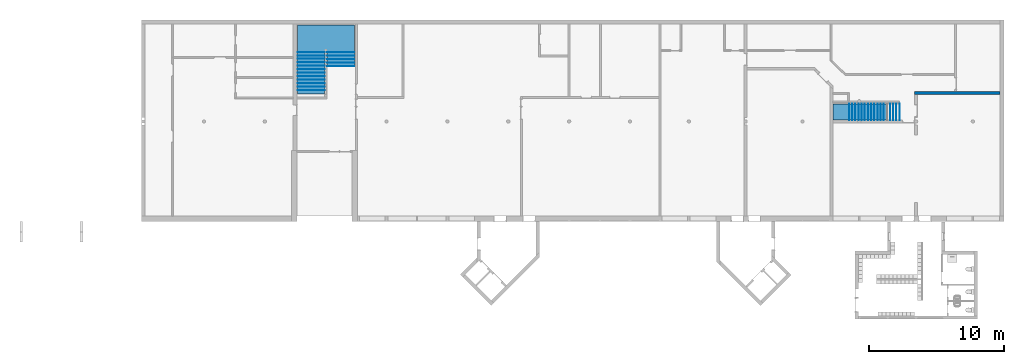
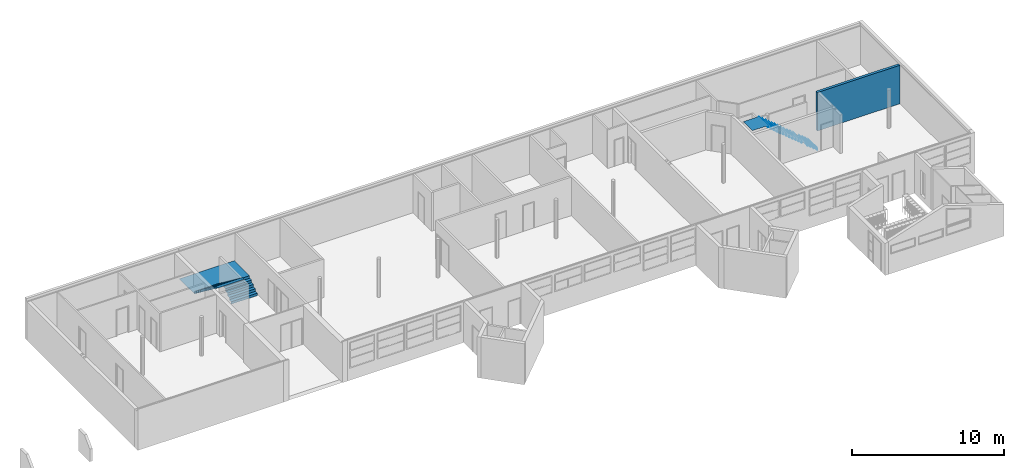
# One storey, part 19 of 25: 63 building element parts, 1 wall, 2 elements without a shape of their own.
"""IFC2X3 building model written with IfcOpenShell, lengths in millimetres."""

from ifc_helpers import new_model, entity, si_unit, converted_unit, derived_unit, money_unit, direction, frame, origin_with_axes, place, context, subcontext, project, spatial, open_shell, faceted_brep, surface_model, material, type_object, element, aggregate, save


model = new_model("IFC2X3")

# Units and contexts
model_context = context("Model", 3, precision=0.01, world=origin_with_axes(), true_north=direction((0.0, 1.0)))
body_context = subcontext(model_context, "Body", "Model", "MODEL_VIEW")
ifc_project = project(units=[si_unit("LENGTHUNIT", "METRE", prefix="MILLI"), si_unit("AREAUNIT", "SQUARE_METRE"), si_unit("VOLUMEUNIT", "CUBIC_METRE"), converted_unit("PLANEANGLEUNIT", "DEGREE", entity("IfcPlaneAngleMeasure", 0.0174532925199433), si_unit("PLANEANGLEUNIT", "RADIAN"), dimensions=[0, 0, 0, 0, 0, 0, 0]), money_unit("USD"), converted_unit("TIMEUNIT", "Year", entity("IfcTimeMeasure", 31557600.0), si_unit("TIMEUNIT", "SECOND"), dimensions=[0, 0, 1, 0, 0, 0, 0]), si_unit("MASSUNIT", "GRAM", prefix="KILO"), si_unit("THERMODYNAMICTEMPERATUREUNIT", "DEGREE_CELSIUS"), si_unit("LUMINOUSINTENSITYUNIT", "LUMEN"), si_unit("ENERGYUNIT", "JOULE", prefix="MEGA"), derived_unit("THERMALCONDUCTANCEUNIT", [(si_unit("POWERUNIT", "WATT"), 1), (si_unit("LENGTHUNIT", "METRE"), -1), (si_unit("THERMODYNAMICTEMPERATUREUNIT", "KELVIN"), -1)]), derived_unit("SPECIFICHEATCAPACITYUNIT", [(si_unit("ENERGYUNIT", "JOULE"), 1), (si_unit("MASSUNIT", "GRAM", prefix="KILO"), -1), (si_unit("THERMODYNAMICTEMPERATUREUNIT", "KELVIN"), -1)]), derived_unit("MASSDENSITYUNIT", [(si_unit("MASSUNIT", "GRAM", prefix="KILO"), 1), (si_unit("VOLUMEUNIT", "CUBIC_METRE"), -1)])], contexts=[model_context])

# Site, building, storey
site_placement = place(None, origin_with_axes())
site = spatial("IfcSite", under=ifc_project, at=site_placement, Name="Site", CompositionType="ELEMENT")
building_placement = place(site_placement, origin_with_axes())
building = spatial("IfcBuilding", under=site, at=building_placement, Name="Building", CompositionType="ELEMENT")
storey_placement = place(building_placement, origin_with_axes())
storey = spatial("IfcBuildingStorey", under=building, at=storey_placement, Name="U ETG", CompositionType="ELEMENT", Elevation=0.0)

# Wall
ifc_material = material(Name="GENERIC - INTERNAL FILLER")
wall_type = type_object("IfcWallType", Name="GENERIC - INTERNAL FILLER 200", PredefinedType="NOTDEFINED")
wall_placement = place(storey_placement, frame((72350.0, 16700.0, 0.0), z_axis=(0.0, 0.0, 1.0), x_axis=(-1.0, 0.0, 0.0)))
element("IfcWall", 1, at=wall_placement, inside=storey, type_object=wall_type, material=ifc_material, Name="SW - 001", context=body_context, shape_type="Brep", body=[
    faceted_brep([(6299.999999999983, 199.9999999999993, 0.0), (6299.999999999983, 0.0, 0.0), (0.0, 0.0, 0.0), (0.0, 199.9999999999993, 0.0), (6299.999999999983, 199.9999999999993, 3100.0), (6299.999999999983, 0.0, 3100.0), (0.0, 0.0, 3100.0), (0.0, 199.9999999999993, 3100.0)], [[[0, 1, 2, 3]], [[1, 0, 4, 5]], [[1, 5, 6, 2]], [[7, 3, 2, 6]], [[4, 0, 3, 7]], [[5, 4, 7, 6]]]),
])

# Stair, building element parts
stair_1_placement = place(storey_placement, frame((20418.15333142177, 17179.44327235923, 0.0), z_axis=(0.0, 0.0, 1.0), x_axis=(1.0, 0.0, 0.0)))
stair_1 = element("IfcStair", 2, at=stair_1_placement, inside=storey, Name="STAIR - 001", ShapeType="NOTDEFINED")
building_element_part_1_placement = place(stair_1_placement, origin_with_axes())
building_element_part_1 = element("IfcBuildingElementPart", 3, at=building_element_part_1_placement, context=body_context, shape_type="SurfaceModel", body=[
    surface_model("IfcShellBasedSurfaceModel", [(2200.000000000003, 1406.254255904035, 194.1176470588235), (4200.000000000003, 1406.254255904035, 194.1176470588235), (4200.000000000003, 1406.254255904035, 0.0), (2200.000000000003, 1406.254255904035, 0.0)], [open_shell([[[0, 1, 2, 3]]])]),
])
building_element_part_2_placement = place(stair_1_placement, origin_with_axes())
building_element_part_2 = element("IfcBuildingElementPart", 4, at=building_element_part_2_placement, context=body_context, shape_type="SurfaceModel", body=[
    surface_model("IfcShellBasedSurfaceModel", [(2200.000000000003, 1663.292902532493, 388.2352941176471), (4200.000000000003, 1663.292902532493, 388.2352941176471), (4200.000000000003, 1663.292902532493, 194.1176470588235), (2200.000000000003, 1663.292902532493, 194.1176470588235)], [open_shell([[[0, 1, 2, 3]]])]),
])
building_element_part_3_placement = place(stair_1_placement, origin_with_axes())
building_element_part_3 = element("IfcBuildingElementPart", 5, at=building_element_part_3_placement, context=body_context, shape_type="SurfaceModel", body=[
    surface_model("IfcShellBasedSurfaceModel", [(2200.000000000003, 1920.331549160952, 582.3529411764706), (4200.000000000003, 1920.331549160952, 582.3529411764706), (4200.000000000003, 1920.331549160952, 388.2352941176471), (2200.000000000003, 1920.331549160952, 388.2352941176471)], [open_shell([[[0, 1, 2, 3]]])]),
])
building_element_part_4_placement = place(stair_1_placement, origin_with_axes())
building_element_part_4 = element("IfcBuildingElementPart", 6, at=building_element_part_4_placement, context=body_context, shape_type="SurfaceModel", body=[
    surface_model("IfcShellBasedSurfaceModel", [(2200.000000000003, 2177.370195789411, 776.4705882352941), (4200.000000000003, 2177.370195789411, 776.4705882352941), (4200.000000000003, 2177.370195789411, 582.3529411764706), (2200.000000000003, 2177.370195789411, 582.3529411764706)], [open_shell([[[0, 1, 2, 3]]])]),
])
building_element_part_5_placement = place(stair_1_placement, origin_with_axes())
building_element_part_5 = element("IfcBuildingElementPart", 7, at=building_element_part_5_placement, context=body_context, shape_type="SurfaceModel", body=[
    surface_model("IfcShellBasedSurfaceModel", [(2200.000000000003, 2434.40884241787, 970.5882352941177), (4200.000000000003, 2434.40884241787, 970.5882352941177), (4200.000000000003, 2434.40884241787, 776.4705882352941), (2200.000000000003, 2434.40884241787, 776.4705882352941)], [open_shell([[[0, 1, 2, 3]]])]),
])
building_element_part_6_placement = place(stair_1_placement, origin_with_axes())
building_element_part_6 = element("IfcBuildingElementPart", 8, at=building_element_part_6_placement, context=body_context, shape_type="SurfaceModel", body=[
    surface_model("IfcShellBasedSurfaceModel", [(2000.0, 2451.689294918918, 1164.705882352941), (0.0, 2451.689294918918, 1164.705882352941), (0.0, 2451.689294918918, 970.5882352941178), (2000.0, 2451.689294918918, 970.5882352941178)], [open_shell([[[0, 1, 2, 3]]])]),
])
building_element_part_7_placement = place(stair_1_placement, origin_with_axes())
building_element_part_7 = element("IfcBuildingElementPart", 9, at=building_element_part_7_placement, context=body_context, shape_type="SurfaceModel", body=[
    surface_model("IfcShellBasedSurfaceModel", [(2000.0, 2194.650648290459, 1358.823529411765), (0.0, 2194.650648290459, 1358.823529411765), (0.0, 2194.650648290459, 1164.705882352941), (2000.0, 2194.650648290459, 1164.705882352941)], [open_shell([[[0, 1, 2, 3]]])]),
])
building_element_part_8_placement = place(stair_1_placement, origin_with_axes())
building_element_part_8 = element("IfcBuildingElementPart", 10, at=building_element_part_8_placement, context=body_context, shape_type="SurfaceModel", body=[
    surface_model("IfcShellBasedSurfaceModel", [(2000.0, 1937.612001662, 1552.941176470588), (0.0, 1937.612001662, 1552.941176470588), (0.0, 1937.612001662, 1358.823529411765), (2000.0, 1937.612001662, 1358.823529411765)], [open_shell([[[0, 1, 2, 3]]])]),
])
building_element_part_9_placement = place(stair_1_placement, origin_with_axes())
building_element_part_9 = element("IfcBuildingElementPart", 11, at=building_element_part_9_placement, context=body_context, shape_type="SurfaceModel", body=[
    surface_model("IfcShellBasedSurfaceModel", [(2000.0, 1680.573355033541, 1747.058823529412), (0.0, 1680.573355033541, 1747.058823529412), (0.0, 1680.573355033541, 1552.941176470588), (2000.0, 1680.573355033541, 1552.941176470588)], [open_shell([[[0, 1, 2, 3]]])]),
])
building_element_part_10_placement = place(stair_1_placement, origin_with_axes())
building_element_part_10 = element("IfcBuildingElementPart", 12, at=building_element_part_10_placement, context=body_context, shape_type="SurfaceModel", body=[
    surface_model("IfcShellBasedSurfaceModel", [(2000.0, 1423.534708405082, 1941.176470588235), (0.0, 1423.534708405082, 1941.176470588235), (0.0, 1423.534708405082, 1747.058823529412), (2000.0, 1423.534708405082, 1747.058823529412)], [open_shell([[[0, 1, 2, 3]]])]),
])
building_element_part_11_placement = place(stair_1_placement, origin_with_axes())
building_element_part_11 = element("IfcBuildingElementPart", 13, at=building_element_part_11_placement, context=body_context, shape_type="SurfaceModel", body=[
    surface_model("IfcShellBasedSurfaceModel", [(2000.0, 1166.496061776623, 2135.294117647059), (0.0, 1166.496061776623, 2135.294117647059), (0.0, 1166.496061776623, 1941.176470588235), (2000.0, 1166.496061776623, 1941.176470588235)], [open_shell([[[0, 1, 2, 3]]])]),
])
building_element_part_12_placement = place(stair_1_placement, origin_with_axes())
building_element_part_12 = element("IfcBuildingElementPart", 14, at=building_element_part_12_placement, context=body_context, shape_type="SurfaceModel", body=[
    surface_model("IfcShellBasedSurfaceModel", [(2000.0, 909.4574151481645, 2329.411764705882), (0.0, 909.4574151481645, 2329.411764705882), (0.0, 909.4574151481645, 2135.294117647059), (2000.0, 909.4574151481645, 2135.294117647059)], [open_shell([[[0, 1, 2, 3]]])]),
])
building_element_part_13_placement = place(stair_1_placement, origin_with_axes())
building_element_part_13 = element("IfcBuildingElementPart", 15, at=building_element_part_13_placement, context=body_context, shape_type="SurfaceModel", body=[
    surface_model("IfcShellBasedSurfaceModel", [(2000.0, 652.4187685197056, 2523.529411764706), (0.0, 652.4187685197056, 2523.529411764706), (0.0, 652.4187685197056, 2329.411764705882), (2000.0, 652.4187685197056, 2329.411764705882)], [open_shell([[[0, 1, 2, 3]]])]),
])
building_element_part_14_placement = place(stair_1_placement, origin_with_axes())
building_element_part_14 = element("IfcBuildingElementPart", 16, at=building_element_part_14_placement, context=body_context, shape_type="SurfaceModel", body=[
    surface_model("IfcShellBasedSurfaceModel", [(2000.0, 395.3801218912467, 2717.64705882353), (0.0, 395.3801218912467, 2717.64705882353), (0.0, 395.3801218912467, 2523.529411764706), (2000.0, 395.3801218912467, 2523.529411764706)], [open_shell([[[0, 1, 2, 3]]])]),
])
building_element_part_15_placement = place(stair_1_placement, origin_with_axes())
building_element_part_15 = element("IfcBuildingElementPart", 17, at=building_element_part_15_placement, context=body_context, shape_type="SurfaceModel", body=[
    surface_model("IfcShellBasedSurfaceModel", [(2000.0, 138.3414752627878, 2911.764705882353), (0.0, 138.3414752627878, 2911.764705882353), (0.0, 138.3414752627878, 2717.647058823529), (2000.0, 138.3414752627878, 2717.647058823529)], [open_shell([[[0, 1, 2, 3]]])]),
])
building_element_part_16_placement = place(stair_1_placement, origin_with_axes())
building_element_part_16 = element("IfcBuildingElementPart", 18, at=building_element_part_16_placement, context=body_context, shape_type="SurfaceModel", body=[
    surface_model("IfcShellBasedSurfaceModel", [(2000.0, -118.697171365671, 3105.882352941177), (0.0, -118.697171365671, 3105.882352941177), (0.0, -118.697171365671, 2911.764705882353), (2000.0, -118.697171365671, 2911.764705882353)], [open_shell([[[0, 1, 2, 3]]])]),
])
building_element_part_17_placement = place(stair_1_placement, origin_with_axes())
building_element_part_17 = element("IfcBuildingElementPart", 19, at=building_element_part_17_placement, context=body_context, shape_type="SurfaceModel", body=[
    surface_model("IfcShellBasedSurfaceModel", [(2000.0, -375.7358179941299, 3300.0), (0.0, -375.7358179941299, 3300.0), (0.0, -375.7358179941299, 3105.882352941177), (2000.0, -375.7358179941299, 3105.882352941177)], [open_shell([[[0, 1, 2, 3]]])]),
])
building_element_part_18_placement = place(stair_1_placement, origin_with_axes())
building_element_part_18 = element("IfcBuildingElementPart", 20, at=building_element_part_18_placement, context=body_context, shape_type="SurfaceModel", body=[
    surface_model("IfcShellBasedSurfaceModel", [(2200.000000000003, 1406.254255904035, 194.1176470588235), (2200.000000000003, 1663.292902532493, 194.1176470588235), (4200.000000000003, 1663.292902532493, 194.1176470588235), (4200.000000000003, 1406.254255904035, 194.1176470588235)], [open_shell([[[0, 1, 2, 3]]])]),
])
building_element_part_19_placement = place(stair_1_placement, origin_with_axes())
building_element_part_19 = element("IfcBuildingElementPart", 21, at=building_element_part_19_placement, context=body_context, shape_type="SurfaceModel", body=[
    surface_model("IfcShellBasedSurfaceModel", [(2200.000000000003, 1663.292902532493, 388.2352941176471), (2200.000000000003, 1920.331549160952, 388.2352941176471), (4200.000000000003, 1920.331549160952, 388.2352941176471), (4200.000000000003, 1663.292902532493, 388.2352941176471)], [open_shell([[[0, 1, 2, 3]]])]),
])
building_element_part_20_placement = place(stair_1_placement, origin_with_axes())
building_element_part_20 = element("IfcBuildingElementPart", 22, at=building_element_part_20_placement, context=body_context, shape_type="SurfaceModel", body=[
    surface_model("IfcShellBasedSurfaceModel", [(2200.000000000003, 1920.331549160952, 582.3529411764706), (2200.000000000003, 2177.370195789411, 582.3529411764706), (4200.000000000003, 2177.370195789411, 582.3529411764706), (4200.000000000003, 1920.331549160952, 582.3529411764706)], [open_shell([[[0, 1, 2, 3]]])]),
])
building_element_part_21_placement = place(stair_1_placement, origin_with_axes())
building_element_part_21 = element("IfcBuildingElementPart", 23, at=building_element_part_21_placement, context=body_context, shape_type="SurfaceModel", body=[
    surface_model("IfcShellBasedSurfaceModel", [(2200.000000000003, 2177.370195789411, 776.4705882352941), (2200.000000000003, 2434.40884241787, 776.4705882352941), (4200.000000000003, 2434.40884241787, 776.4705882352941), (4200.000000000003, 2177.370195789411, 776.4705882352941)], [open_shell([[[0, 1, 2, 3]]])]),
])
building_element_part_22_placement = place(stair_1_placement, origin_with_axes())
building_element_part_22 = element("IfcBuildingElementPart", 24, at=building_element_part_22_placement, context=body_context, shape_type="SurfaceModel", body=[
    surface_model("IfcShellBasedSurfaceModel", [(0.0, 4451.689267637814, 970.5882352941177), (4200.000000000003, 4451.689267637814, 970.5882352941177), (4200.000000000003, 2451.689294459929, 970.5882352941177), (4200.000000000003, 2434.40884241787, 970.5882352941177), (2200.000026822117, 2434.40884241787, 970.5882352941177), (2200.000026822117, 2451.689294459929, 970.5882352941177), (1999.999973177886, 2451.689294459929, 970.5882352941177), (0.0, 2451.689294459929, 970.5882352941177)], [open_shell([[[0, 1, 2, 3, 4, 5, 6, 7]]])]),
])
building_element_part_23_placement = place(stair_1_placement, origin_with_axes())
building_element_part_23 = element("IfcBuildingElementPart", 25, at=building_element_part_23_placement, context=body_context, shape_type="SurfaceModel", body=[
    surface_model("IfcShellBasedSurfaceModel", [(0.0, 2194.650648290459, 1164.705882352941), (0.0, 2451.68930789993, 1164.705882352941), (2000.0, 2451.68930789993, 1164.705882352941), (2000.0, 2194.650648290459, 1164.705882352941)], [open_shell([[[0, 1, 2, 3]]])]),
])
building_element_part_24_placement = place(stair_1_placement, origin_with_axes())
building_element_part_24 = element("IfcBuildingElementPart", 26, at=building_element_part_24_placement, context=body_context, shape_type="SurfaceModel", body=[
    surface_model("IfcShellBasedSurfaceModel", [(2000.0, 2194.650648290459, 1358.823529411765), (2000.0, 1937.612001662, 1358.823529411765), (0.0, 1937.612001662, 1358.823529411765), (0.0, 2194.650648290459, 1358.823529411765)], [open_shell([[[0, 1, 2, 3]]])]),
])
building_element_part_25_placement = place(stair_1_placement, origin_with_axes())
building_element_part_25 = element("IfcBuildingElementPart", 27, at=building_element_part_25_placement, context=body_context, shape_type="SurfaceModel", body=[
    surface_model("IfcShellBasedSurfaceModel", [(2000.0, 1937.612001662, 1552.941176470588), (2000.0, 1680.573355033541, 1552.941176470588), (0.0, 1680.573355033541, 1552.941176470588), (0.0, 1937.612001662, 1552.941176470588)], [open_shell([[[0, 1, 2, 3]]])]),
])
building_element_part_26_placement = place(stair_1_placement, origin_with_axes())
building_element_part_26 = element("IfcBuildingElementPart", 28, at=building_element_part_26_placement, context=body_context, shape_type="SurfaceModel", body=[
    surface_model("IfcShellBasedSurfaceModel", [(2000.0, 1680.573355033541, 1747.058823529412), (2000.0, 1423.534708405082, 1747.058823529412), (0.0, 1423.534708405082, 1747.058823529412), (0.0, 1680.573355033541, 1747.058823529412)], [open_shell([[[0, 1, 2, 3]]])]),
])
building_element_part_27_placement = place(stair_1_placement, origin_with_axes())
building_element_part_27 = element("IfcBuildingElementPart", 29, at=building_element_part_27_placement, context=body_context, shape_type="SurfaceModel", body=[
    surface_model("IfcShellBasedSurfaceModel", [(2000.0, 1423.534708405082, 1941.176470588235), (2000.0, 1166.496061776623, 1941.176470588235), (0.0, 1166.496061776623, 1941.176470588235), (0.0, 1423.534708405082, 1941.176470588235)], [open_shell([[[0, 1, 2, 3]]])]),
])
building_element_part_28_placement = place(stair_1_placement, origin_with_axes())
building_element_part_28 = element("IfcBuildingElementPart", 30, at=building_element_part_28_placement, context=body_context, shape_type="SurfaceModel", body=[
    surface_model("IfcShellBasedSurfaceModel", [(2000.0, 1166.496061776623, 2135.294117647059), (2000.0, 909.4574151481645, 2135.294117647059), (0.0, 909.4574151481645, 2135.294117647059), (0.0, 1166.496061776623, 2135.294117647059)], [open_shell([[[0, 1, 2, 3]]])]),
])
building_element_part_29_placement = place(stair_1_placement, origin_with_axes())
building_element_part_29 = element("IfcBuildingElementPart", 31, at=building_element_part_29_placement, context=body_context, shape_type="SurfaceModel", body=[
    surface_model("IfcShellBasedSurfaceModel", [(2000.0, 909.4574151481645, 2329.411764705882), (2000.0, 652.4187685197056, 2329.411764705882), (0.0, 652.4187685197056, 2329.411764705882), (0.0, 909.4574151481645, 2329.411764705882)], [open_shell([[[0, 1, 2, 3]]])]),
])
building_element_part_30_placement = place(stair_1_placement, origin_with_axes())
building_element_part_30 = element("IfcBuildingElementPart", 32, at=building_element_part_30_placement, context=body_context, shape_type="SurfaceModel", body=[
    surface_model("IfcShellBasedSurfaceModel", [(2000.0, 652.4187685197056, 2523.529411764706), (2000.0, 395.3801218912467, 2523.529411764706), (0.0, 395.3801218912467, 2523.529411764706), (0.0, 652.4187685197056, 2523.529411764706)], [open_shell([[[0, 1, 2, 3]]])]),
])
building_element_part_31_placement = place(stair_1_placement, origin_with_axes())
building_element_part_31 = element("IfcBuildingElementPart", 33, at=building_element_part_31_placement, context=body_context, shape_type="SurfaceModel", body=[
    surface_model("IfcShellBasedSurfaceModel", [(2000.0, 395.3801218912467, 2717.64705882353), (2000.0, 138.3414752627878, 2717.64705882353), (0.0, 138.3414752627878, 2717.64705882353), (0.0, 395.3801218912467, 2717.64705882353)], [open_shell([[[0, 1, 2, 3]]])]),
])
building_element_part_32_placement = place(stair_1_placement, origin_with_axes())
building_element_part_32 = element("IfcBuildingElementPart", 34, at=building_element_part_32_placement, context=body_context, shape_type="SurfaceModel", body=[
    surface_model("IfcShellBasedSurfaceModel", [(2000.0, 138.3414752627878, 2911.764705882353), (2000.0, -118.697171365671, 2911.764705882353), (0.0, -118.697171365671, 2911.764705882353), (0.0, 138.3414752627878, 2911.764705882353)], [open_shell([[[0, 1, 2, 3]]])]),
])
building_element_part_33_placement = place(stair_1_placement, origin_with_axes())
building_element_part_33 = element("IfcBuildingElementPart", 35, at=building_element_part_33_placement, context=body_context, shape_type="SurfaceModel", body=[
    surface_model("IfcShellBasedSurfaceModel", [(2000.0, -118.697171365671, 3105.882352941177), (2000.0, -375.7358179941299, 3105.882352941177), (0.0, -375.7358179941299, 3105.882352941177), (0.0, -118.697171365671, 3105.882352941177)], [open_shell([[[0, 1, 2, 3]]])]),
])
building_element_part_34_placement = place(stair_1_placement, origin_with_axes())
building_element_part_34 = element("IfcBuildingElementPart", 36, at=building_element_part_34_placement, context=body_context, shape_type="SurfaceModel", body=[
    surface_model("IfcShellBasedSurfaceModel", [(2000.0, -375.7358179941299, 3300.0), (2000.0, -632.7744646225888, 3300.0), (0.0, -632.7744646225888, 3300.0), (0.0, -375.7358179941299, 3300.0)], [open_shell([[[0, 1, 2, 3]]])]),
])
aggregate(stair_1, [building_element_part_1, building_element_part_2, building_element_part_3, building_element_part_4, building_element_part_5, building_element_part_6, building_element_part_7, building_element_part_8, building_element_part_9, building_element_part_10, building_element_part_11, building_element_part_12, building_element_part_13, building_element_part_14, building_element_part_15, building_element_part_16, building_element_part_17, building_element_part_18, building_element_part_19, building_element_part_20, building_element_part_21, building_element_part_22, building_element_part_23, building_element_part_24, building_element_part_25, building_element_part_26, building_element_part_27, building_element_part_28, building_element_part_29, building_element_part_30, building_element_part_31, building_element_part_32, building_element_part_33, building_element_part_34])

stair_2_placement = place(storey_placement, frame((59283.68594210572, 14599.87497638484, 0.0), z_axis=(0.0, 0.0, 1.0), x_axis=(1.0, 0.0, 0.0)))
stair_2 = element("IfcStair", 37, at=stair_2_placement, inside=storey, Name="STAIR - 001", ShapeType="NOTDEFINED")
building_element_part_35_placement = place(stair_2_placement, origin_with_axes())
building_element_part_35 = element("IfcBuildingElementPart", 38, at=building_element_part_35_placement, context=body_context, shape_type="SurfaceModel", body=[
    surface_model("IfcShellBasedSurfaceModel", [(5649.999999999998, 0.0, 194.1176470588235), (5649.999999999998, 1199.999999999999, 194.1176470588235), (5649.999999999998, 1199.999999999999, 0.0), (5649.999999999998, 0.0, 0.0)], [open_shell([[[0, 1, 2, 3]]])]),
])
building_element_part_36_placement = place(stair_2_placement, origin_with_axes())
building_element_part_36 = element("IfcBuildingElementPart", 39, at=building_element_part_36_placement, context=body_context, shape_type="SurfaceModel", body=[
    surface_model("IfcShellBasedSurfaceModel", [(5416.863558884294, 0.0, 388.235294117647), (5416.863558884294, 1199.999999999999, 388.235294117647), (5416.863558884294, 1199.999999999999, 194.1176470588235), (5416.863558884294, 0.0, 194.1176470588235)], [open_shell([[[0, 1, 2, 3]]])]),
])
building_element_part_37_placement = place(stair_2_placement, origin_with_axes())
building_element_part_37 = element("IfcBuildingElementPart", 40, at=building_element_part_37_placement, context=body_context, shape_type="SurfaceModel", body=[
    surface_model("IfcShellBasedSurfaceModel", [(5183.727117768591, 0.0, 582.3529411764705), (5183.727117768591, 1199.999999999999, 582.3529411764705), (5183.727117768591, 1199.999999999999, 388.235294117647), (5183.727117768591, 0.0, 388.235294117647)], [open_shell([[[0, 1, 2, 3]]])]),
])
building_element_part_38_placement = place(stair_2_placement, origin_with_axes())
building_element_part_38 = element("IfcBuildingElementPart", 41, at=building_element_part_38_placement, context=body_context, shape_type="SurfaceModel", body=[
    surface_model("IfcShellBasedSurfaceModel", [(4950.590676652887, 0.0, 776.470588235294), (4950.590676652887, 1199.999999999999, 776.470588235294), (4950.590676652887, 1199.999999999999, 582.3529411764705), (4950.590676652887, 0.0, 582.3529411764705)], [open_shell([[[0, 1, 2, 3]]])]),
])
building_element_part_39_placement = place(stair_2_placement, origin_with_axes())
building_element_part_39 = element("IfcBuildingElementPart", 42, at=building_element_part_39_placement, context=body_context, shape_type="SurfaceModel", body=[
    surface_model("IfcShellBasedSurfaceModel", [(4484.317794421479, 0.0, 1164.705882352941), (4484.317794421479, 1199.999999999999, 1164.705882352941), (4484.317794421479, 1199.999999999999, 970.5882352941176), (4484.317794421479, 0.0, 970.5882352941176)], [open_shell([[[0, 1, 2, 3]]])]),
])
building_element_part_40_placement = place(stair_2_placement, origin_with_axes())
building_element_part_40 = element("IfcBuildingElementPart", 43, at=building_element_part_40_placement, context=body_context, shape_type="SurfaceModel", body=[
    surface_model("IfcShellBasedSurfaceModel", [(4251.181353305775, 0.0, 1358.823529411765), (4251.181353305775, 1199.999999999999, 1358.823529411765), (4251.181353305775, 1199.999999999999, 1164.705882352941), (4251.181353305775, 0.0, 1164.705882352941)], [open_shell([[[0, 1, 2, 3]]])]),
])
building_element_part_41_placement = place(stair_2_placement, origin_with_axes())
building_element_part_41 = element("IfcBuildingElementPart", 44, at=building_element_part_41_placement, context=body_context, shape_type="SurfaceModel", body=[
    surface_model("IfcShellBasedSurfaceModel", [(4018.044912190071, 0.0, 1552.941176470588), (4018.044912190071, 1199.999999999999, 1552.941176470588), (4018.044912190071, 1199.999999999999, 1358.823529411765), (4018.044912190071, 0.0, 1358.823529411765)], [open_shell([[[0, 1, 2, 3]]])]),
])
building_element_part_42_placement = place(stair_2_placement, origin_with_axes())
building_element_part_42 = element("IfcBuildingElementPart", 45, at=building_element_part_42_placement, context=body_context, shape_type="SurfaceModel", body=[
    surface_model("IfcShellBasedSurfaceModel", [(3784.90847107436, 0.0, 1747.058823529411), (3784.90847107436, 1199.999999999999, 1747.058823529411), (3784.90847107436, 1199.999999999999, 1552.941176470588), (3784.90847107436, 0.0, 1552.941176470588)], [open_shell([[[0, 1, 2, 3]]])]),
])
building_element_part_43_placement = place(stair_2_placement, origin_with_axes())
building_element_part_43 = element("IfcBuildingElementPart", 46, at=building_element_part_43_placement, context=body_context, shape_type="SurfaceModel", body=[
    surface_model("IfcShellBasedSurfaceModel", [(3551.772029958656, 0.0, 1941.176470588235), (3551.772029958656, 1199.999999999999, 1941.176470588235), (3551.772029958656, 1199.999999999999, 1747.058823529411), (3551.772029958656, 0.0, 1747.058823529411)], [open_shell([[[0, 1, 2, 3]]])]),
])
building_element_part_44_placement = place(stair_2_placement, origin_with_axes())
building_element_part_44 = element("IfcBuildingElementPart", 47, at=building_element_part_44_placement, context=body_context, shape_type="SurfaceModel", body=[
    surface_model("IfcShellBasedSurfaceModel", [(3318.635588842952, 0.0, 2135.294117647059), (3318.635588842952, 1199.999999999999, 2135.294117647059), (3318.635588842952, 1199.999999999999, 1941.176470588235), (3318.635588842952, 0.0, 1941.176470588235)], [open_shell([[[0, 1, 2, 3]]])]),
])
building_element_part_45_placement = place(stair_2_placement, origin_with_axes())
building_element_part_45 = element("IfcBuildingElementPart", 48, at=building_element_part_45_placement, context=body_context, shape_type="SurfaceModel", body=[
    surface_model("IfcShellBasedSurfaceModel", [(3085.499147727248, 0.0, 2329.411764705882), (3085.499147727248, 1199.999999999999, 2329.411764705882), (3085.499147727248, 1199.999999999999, 2135.294117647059), (3085.499147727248, 0.0, 2135.294117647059)], [open_shell([[[0, 1, 2, 3]]])]),
])
building_element_part_46_placement = place(stair_2_placement, origin_with_axes())
building_element_part_46 = element("IfcBuildingElementPart", 49, at=building_element_part_46_placement, context=body_context, shape_type="SurfaceModel", body=[
    surface_model("IfcShellBasedSurfaceModel", [(2852.362706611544, 0.0, 2523.529411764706), (2852.362706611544, 1199.999999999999, 2523.529411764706), (2852.362706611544, 1199.999999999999, 2329.411764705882), (2852.362706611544, 0.0, 2329.411764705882)], [open_shell([[[0, 1, 2, 3]]])]),
])
building_element_part_47_placement = place(stair_2_placement, origin_with_axes())
building_element_part_47 = element("IfcBuildingElementPart", 50, at=building_element_part_47_placement, context=body_context, shape_type="SurfaceModel", body=[
    surface_model("IfcShellBasedSurfaceModel", [(2619.22626549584, 0.0, 2717.647058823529), (2619.22626549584, 1199.999999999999, 2717.647058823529), (2619.22626549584, 1199.999999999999, 2523.529411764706), (2619.22626549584, 0.0, 2523.529411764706)], [open_shell([[[0, 1, 2, 3]]])]),
])
building_element_part_48_placement = place(stair_2_placement, origin_with_axes())
building_element_part_48 = element("IfcBuildingElementPart", 51, at=building_element_part_48_placement, context=body_context, shape_type="SurfaceModel", body=[
    surface_model("IfcShellBasedSurfaceModel", [(2386.089824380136, 0.0, 2911.764705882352), (2386.089824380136, 1199.999999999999, 2911.764705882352), (2386.089824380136, 1199.999999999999, 2717.647058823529), (2386.089824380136, 0.0, 2717.647058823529)], [open_shell([[[0, 1, 2, 3]]])]),
])
building_element_part_49_placement = place(stair_2_placement, origin_with_axes())
building_element_part_49 = element("IfcBuildingElementPart", 52, at=building_element_part_49_placement, context=body_context, shape_type="SurfaceModel", body=[
    surface_model("IfcShellBasedSurfaceModel", [(2152.953383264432, 0.0, 3105.882352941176), (2152.953383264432, 1199.999999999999, 3105.882352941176), (2152.953383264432, 1199.999999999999, 2911.764705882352), (2152.953383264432, 0.0, 2911.764705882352)], [open_shell([[[0, 1, 2, 3]]])]),
])
building_element_part_50_placement = place(stair_2_placement, origin_with_axes())
building_element_part_50 = element("IfcBuildingElementPart", 53, at=building_element_part_50_placement, context=body_context, shape_type="SurfaceModel", body=[
    surface_model("IfcShellBasedSurfaceModel", [(1919.816942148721, 0.0, 3300.0), (1919.816942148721, 1199.999999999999, 3300.0), (1919.816942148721, 1199.999999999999, 3105.882352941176), (1919.816942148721, 0.0, 3105.882352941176)], [open_shell([[[0, 1, 2, 3]]])]),
])
building_element_part_51_placement = place(stair_2_placement, origin_with_axes())
building_element_part_51 = element("IfcBuildingElementPart", 54, at=building_element_part_51_placement, context=body_context, shape_type="SurfaceModel", body=[
    surface_model("IfcShellBasedSurfaceModel", [(4717.454235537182, 0.0, 970.5882352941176), (4484.317794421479, 0.0, 970.5882352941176), (4484.317794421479, 1199.999999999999, 970.5882352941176), (4717.454235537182, 1199.999999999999, 970.5882352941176)], [open_shell([[[0, 1, 2, 3]]])]),
])
building_element_part_52_placement = place(stair_2_placement, origin_with_axes())
building_element_part_52 = element("IfcBuildingElementPart", 55, at=building_element_part_52_placement, context=body_context, shape_type="SurfaceModel", body=[
    surface_model("IfcShellBasedSurfaceModel", [(4484.317794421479, 0.0, 1164.705882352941), (4251.181353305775, 0.0, 1164.705882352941), (4251.181353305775, 1199.999999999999, 1164.705882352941), (4484.317794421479, 1199.999999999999, 1164.705882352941)], [open_shell([[[0, 1, 2, 3]]])]),
])
building_element_part_53_placement = place(stair_2_placement, origin_with_axes())
building_element_part_53 = element("IfcBuildingElementPart", 56, at=building_element_part_53_placement, context=body_context, shape_type="SurfaceModel", body=[
    surface_model("IfcShellBasedSurfaceModel", [(4251.181353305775, 0.0, 1358.823529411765), (4018.044912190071, 0.0, 1358.823529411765), (4018.044912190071, 1199.999999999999, 1358.823529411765), (4251.181353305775, 1199.999999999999, 1358.823529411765)], [open_shell([[[0, 1, 2, 3]]])]),
])
building_element_part_54_placement = place(stair_2_placement, origin_with_axes())
building_element_part_54 = element("IfcBuildingElementPart", 57, at=building_element_part_54_placement, context=body_context, shape_type="SurfaceModel", body=[
    surface_model("IfcShellBasedSurfaceModel", [(4018.044912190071, 0.0, 1552.941176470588), (3784.908471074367, 0.0, 1552.941176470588), (3784.908471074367, 1199.999999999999, 1552.941176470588), (4018.044912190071, 1199.999999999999, 1552.941176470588)], [open_shell([[[0, 1, 2, 3]]])]),
])
building_element_part_55_placement = place(stair_2_placement, origin_with_axes())
building_element_part_55 = element("IfcBuildingElementPart", 58, at=building_element_part_55_placement, context=body_context, shape_type="SurfaceModel", body=[
    surface_model("IfcShellBasedSurfaceModel", [(3551.772029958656, 0.0, 1941.176470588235), (3318.635588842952, 0.0, 1941.176470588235), (3318.635588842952, 1199.999999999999, 1941.176470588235), (3551.772029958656, 1199.999999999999, 1941.176470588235)], [open_shell([[[0, 1, 2, 3]]])]),
])
building_element_part_56_placement = place(stair_2_placement, origin_with_axes())
building_element_part_56 = element("IfcBuildingElementPart", 59, at=building_element_part_56_placement, context=body_context, shape_type="SurfaceModel", body=[
    surface_model("IfcShellBasedSurfaceModel", [(3784.90847107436, 0.0, 1747.058823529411), (3551.772029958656, 0.0, 1747.058823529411), (3551.772029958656, 1199.999999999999, 1747.058823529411), (3784.90847107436, 1199.999999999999, 1747.058823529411)], [open_shell([[[0, 1, 2, 3]]])]),
])
building_element_part_57_placement = place(stair_2_placement, origin_with_axes())
building_element_part_57 = element("IfcBuildingElementPart", 60, at=building_element_part_57_placement, context=body_context, shape_type="SurfaceModel", body=[
    surface_model("IfcShellBasedSurfaceModel", [(3318.635588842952, 0.0, 2135.294117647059), (3085.499147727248, 0.0, 2135.294117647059), (3085.499147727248, 1199.999999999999, 2135.294117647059), (3318.635588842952, 1199.999999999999, 2135.294117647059)], [open_shell([[[0, 1, 2, 3]]])]),
])
building_element_part_58_placement = place(stair_2_placement, origin_with_axes())
building_element_part_58 = element("IfcBuildingElementPart", 61, at=building_element_part_58_placement, context=body_context, shape_type="SurfaceModel", body=[
    surface_model("IfcShellBasedSurfaceModel", [(3085.499147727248, 0.0, 2329.411764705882), (2852.362706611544, 0.0, 2329.411764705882), (2852.362706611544, 1199.999999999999, 2329.411764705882), (3085.499147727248, 1199.999999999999, 2329.411764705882)], [open_shell([[[0, 1, 2, 3]]])]),
])
building_element_part_59_placement = place(stair_2_placement, origin_with_axes())
building_element_part_59 = element("IfcBuildingElementPart", 62, at=building_element_part_59_placement, context=body_context, shape_type="SurfaceModel", body=[
    surface_model("IfcShellBasedSurfaceModel", [(2852.362706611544, 0.0, 2523.529411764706), (2619.22626549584, 0.0, 2523.529411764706), (2619.22626549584, 1199.999999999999, 2523.529411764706), (2852.362706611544, 1199.999999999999, 2523.529411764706)], [open_shell([[[0, 1, 2, 3]]])]),
])
building_element_part_60_placement = place(stair_2_placement, origin_with_axes())
building_element_part_60 = element("IfcBuildingElementPart", 63, at=building_element_part_60_placement, context=body_context, shape_type="SurfaceModel", body=[
    surface_model("IfcShellBasedSurfaceModel", [(2619.22626549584, 0.0, 2717.647058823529), (2386.089824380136, 0.0, 2717.647058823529), (2386.089824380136, 1199.999999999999, 2717.647058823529), (2619.22626549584, 1199.999999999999, 2717.647058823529)], [open_shell([[[0, 1, 2, 3]]])]),
])
building_element_part_61_placement = place(stair_2_placement, origin_with_axes())
building_element_part_61 = element("IfcBuildingElementPart", 64, at=building_element_part_61_placement, context=body_context, shape_type="SurfaceModel", body=[
    surface_model("IfcShellBasedSurfaceModel", [(2386.089824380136, 0.0, 2911.764705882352), (2152.953383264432, 0.0, 2911.764705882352), (2152.953383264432, 1199.999999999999, 2911.764705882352), (2386.089824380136, 1199.999999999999, 2911.764705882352)], [open_shell([[[0, 1, 2, 3]]])]),
])
building_element_part_62_placement = place(stair_2_placement, origin_with_axes())
building_element_part_62 = element("IfcBuildingElementPart", 65, at=building_element_part_62_placement, context=body_context, shape_type="SurfaceModel", body=[
    surface_model("IfcShellBasedSurfaceModel", [(2152.953383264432, 0.0, 3105.882352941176), (1919.816942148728, 0.0, 3105.882352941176), (1919.816942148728, 1199.999999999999, 3105.882352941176), (2152.953383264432, 1199.999999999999, 3105.882352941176)], [open_shell([[[0, 1, 2, 3]]])]),
])
building_element_part_63_placement = place(stair_2_placement, origin_with_axes())
building_element_part_63 = element("IfcBuildingElementPart", 66, at=building_element_part_63_placement, context=body_context, shape_type="SurfaceModel", body=[
    surface_model("IfcShellBasedSurfaceModel", [(1919.816942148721, 1199.999999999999, 3300.0), (1919.816942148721, 0.0, 3300.0), (719.816942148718, 0.0, 3300.0), (719.816942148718, 1199.999999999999, 3300.0)], [open_shell([[[0, 1, 2, 3]]])]),
])
aggregate(stair_2, [building_element_part_35, building_element_part_36, building_element_part_37, building_element_part_38, building_element_part_39, building_element_part_40, building_element_part_41, building_element_part_42, building_element_part_43, building_element_part_44, building_element_part_45, building_element_part_46, building_element_part_47, building_element_part_48, building_element_part_49, building_element_part_50, building_element_part_51, building_element_part_52, building_element_part_53, building_element_part_54, building_element_part_55, building_element_part_56, building_element_part_57, building_element_part_58, building_element_part_59, building_element_part_60, building_element_part_61, building_element_part_62, building_element_part_63])

save(model, "model.ifc")
